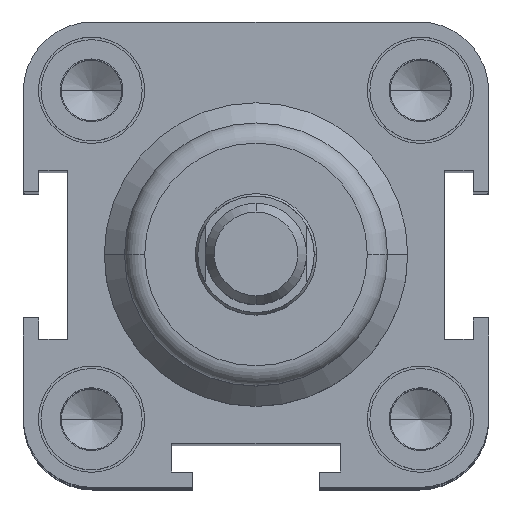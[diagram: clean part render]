
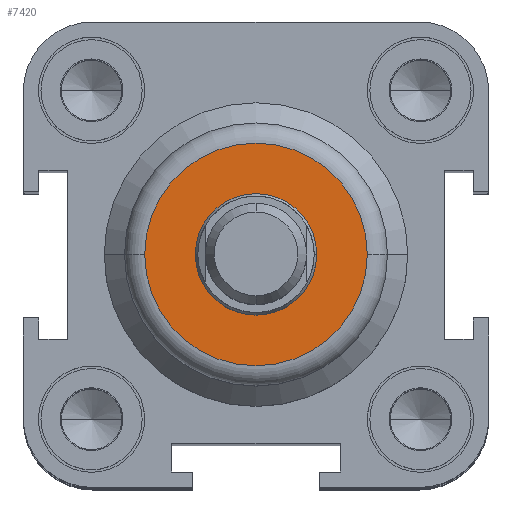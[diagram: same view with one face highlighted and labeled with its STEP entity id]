
A CAD part, top view. The second image highlights one B-rep face of the part: STEP entity #7420.
In plain terms, the highlighted planar face has unit normal (0, 0, 1).
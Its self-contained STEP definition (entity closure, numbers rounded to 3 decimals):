
#1472=CARTESIAN_POINT('',(-11.,0.0,88.0));
#1473=VERTEX_POINT('',#1472);
#1481=CARTESIAN_POINT('',(11.,0.,88.0));
#1482=VERTEX_POINT('',#1481);
#1483=CARTESIAN_POINT('',(0.0,0.0,88.0));
#1484=DIRECTION('',(0.0,0.0,-1.0));
#1485=DIRECTION('',(-1.0,0.0,0.0));
#1486=AXIS2_PLACEMENT_3D('',#1483,#1484,#1485);
#1487=CIRCLE('',#1486,11.);
#1488=EDGE_CURVE('',#1473,#1482,#1487,.T.);
#1593=CARTESIAN_POINT('',(6.,0.0,88.0));
#1594=VERTEX_POINT('',#1593);
#1610=CARTESIAN_POINT('',(-6.,0.,88.0));
#1611=VERTEX_POINT('',#1610);
#1618=CARTESIAN_POINT('',(0.0,0.0,88.0));
#1619=DIRECTION('',(0.0,0.0,-1.0));
#1620=DIRECTION('',(1.0,0.0,0.0));
#1621=AXIS2_PLACEMENT_3D('',#1618,#1619,#1620);
#1622=CIRCLE('',#1621,6.);
#1623=EDGE_CURVE('',#1594,#1611,#1622,.T.);
#7347=CARTESIAN_POINT('',(0.0,0.0,88.0));
#7348=DIRECTION('',(0.0,0.0,-1.0));
#7349=DIRECTION('',(1.0,0.0,0.0));
#7350=AXIS2_PLACEMENT_3D('',#7347,#7348,#7349);
#7351=CIRCLE('',#7350,6.);
#7352=EDGE_CURVE('',#1611,#1594,#7351,.T.);
#7401=CARTESIAN_POINT('',(-5.5,0.0,88.0));
#7402=DIRECTION('',(0.0,0.0,1.0));
#7403=DIRECTION('',(1.0,0.0,0.0));
#7404=AXIS2_PLACEMENT_3D('',#7401,#7402,#7403);
#7405=PLANE('',#7404);
#7406=ORIENTED_EDGE('',*,*,#1488,.F.);
#7407=CARTESIAN_POINT('',(0.0,0.0,88.0));
#7408=DIRECTION('',(0.0,0.0,-1.0));
#7409=DIRECTION('',(-1.0,0.0,0.0));
#7410=AXIS2_PLACEMENT_3D('',#7407,#7408,#7409);
#7411=CIRCLE('',#7410,11.);
#7412=EDGE_CURVE('',#1482,#1473,#7411,.T.);
#7413=ORIENTED_EDGE('',*,*,#7412,.F.);
#7414=EDGE_LOOP('',(#7406,#7413));
#7415=FACE_OUTER_BOUND('',#7414,.T.);
#7416=ORIENTED_EDGE('',*,*,#1623,.T.);
#7417=ORIENTED_EDGE('',*,*,#7352,.T.);
#7418=EDGE_LOOP('',(#7416,#7417));
#7419=FACE_BOUND('',#7418,.T.);
#7420=ADVANCED_FACE('',(#7415,#7419),#7405,.T.);
